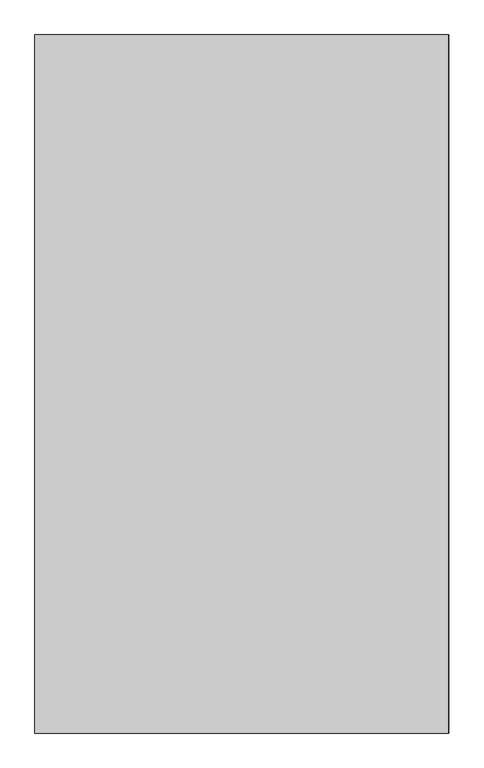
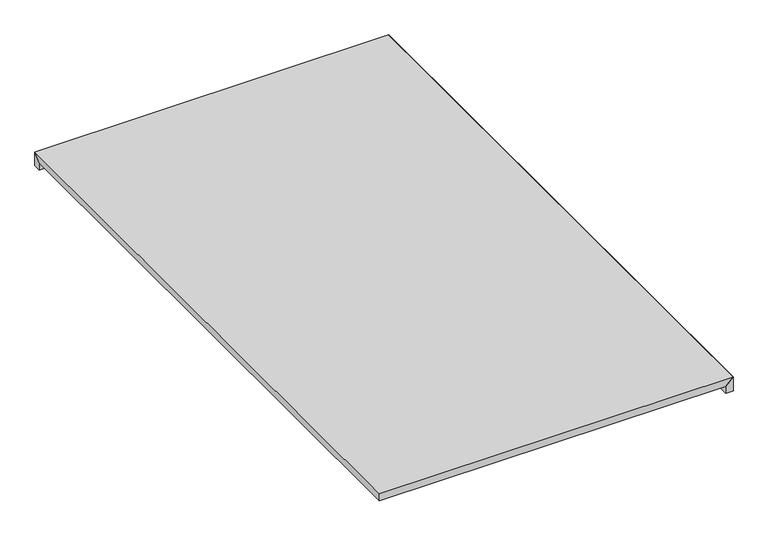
"""IFC4 building model written with IfcOpenShell, lengths in millimetres: proxy geometry, AERO^OFFICE 1_WALL HUNGS-36x60 RT."""

from ifc_helpers import new_model, si_unit, origin, place, context, project, spatial, faceted_brep, source, transform, mapped, element, save


def generic_models_f8e0482d(model_context):
    return source(origin(), model_context, "Body", "Brep", [
        faceted_brep([(914.4, 1543.05, -19.05), (914.4, 1543.05, 19.05), (914.4, 0.0, 19.05), (914.4, 0.0, -19.05), (895.35, 1524.0, 0.0), (895.35, 0.0, 0.0), (895.35, 1524.0, -19.05), (895.35, 0.0, -19.05)], [[[0, 1, 2, 3]], [[1, 4, 5, 2]], [[4, 6, 7, 5]], [[6, 0, 3, 7]], [[3, 2, 5, 7]], [[4, 1, 0, 6]]]),
        faceted_brep([(895.35, 1524.0, 0.0), (914.4, 1543.05, 19.05), (914.4, 0.0, 19.05), (895.35, 0.0, 0.0), (0.0, 0.0, 0.0), (0.0, 1524.0, 0.0), (0.0, 0.0, 19.05), (0.0, 1543.05, 19.05)], [[[0, 1, 2, 3]], [[0, 3, 4, 5]], [[3, 2, 6, 4]], [[1, 0, 5, 7]], [[7, 5, 4, 6]], [[2, 1, 7, 6]]]),
        faceted_brep([(895.35, 1524.0, -19.05), (914.4, 1543.05, -19.05), (914.4, 1543.05, 19.05), (895.35, 1524.0, 0.0), (0.0, 1524.0, -19.05), (0.0, 1543.05, -19.05), (0.0, 1524.0, 0.0), (0.0, 1543.05, 19.05)], [[[0, 1, 2, 3]], [[1, 0, 4, 5]], [[0, 3, 6, 4]], [[5, 7, 2, 1]], [[3, 2, 7, 6]], [[7, 5, 4, 6]]]),
    ])


if __name__ == "__main__":
    model = new_model("IFC4")
    model_context = context("Model", 3, world=origin())
    ifc_project = project(units=[si_unit("LENGTHUNIT", "METRE", prefix="MILLI")], contexts=[model_context])
    site = spatial("IfcSite", under=ifc_project)
    building = spatial("IfcBuilding", under=site)
    placement = place(None, origin())
    generic_models_shape = generic_models_f8e0482d(model_context)
    element("IfcBuildingElementProxy", 1, Name="AERO^OFFICE 1_WALL HUNGS-36x60 RT", ObjectType="AERO^OFFICE 1_WALL HUNGS-36x60 RT", at=placement, inside=building, context=model_context, shape_type="MappedRepresentation", body=[
        mapped(generic_models_shape, transform((0.0, 0.0, 0.0), x_axis=(1.0, 0.0, 0.0), y_axis=(0.0, 1.0, 0.0), z_axis=(0.0, 0.0, 1.0))),
    ])
    save(model, "model.ifc")
